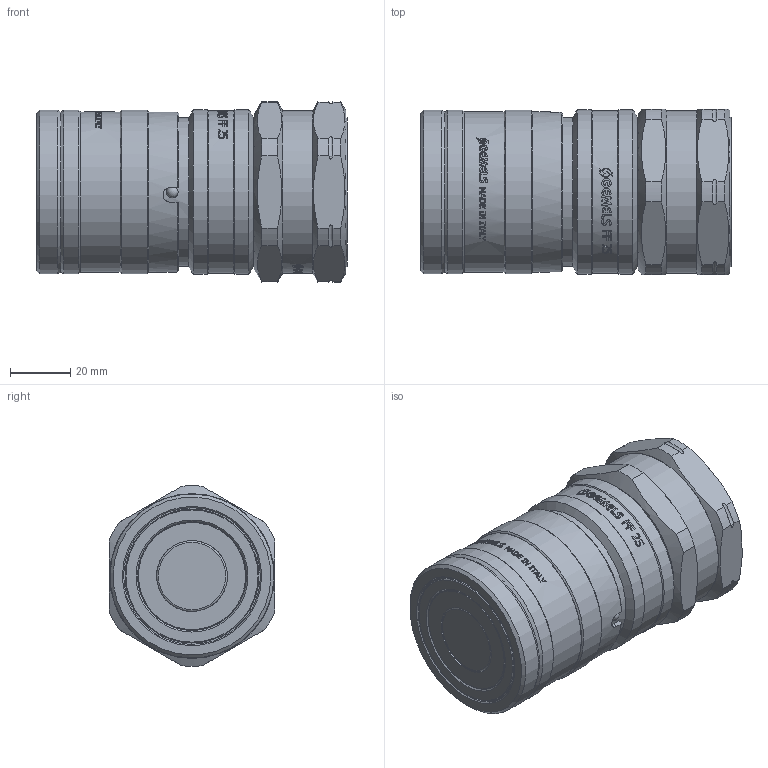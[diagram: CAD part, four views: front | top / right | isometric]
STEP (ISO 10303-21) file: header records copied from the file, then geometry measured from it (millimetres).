
FILE_DESCRIPTION(/* description */ (''),/* implementation_level */ '2;1');
FILE_NAME(/* name */ 'NC06N070000.stp',/* time_stamp */ '2024-08-26T17:50:08+02:00',/* author */ ('thomas.belotti'),/* organization */ (''),/* preprocessor_version */ 'ST-DEVELOPER v20',/* originating_system */ 'Autodesk Inventor 2024',/* authorisation */ '');
FILE_SCHEMA (('AUTOMOTIVE_DESIGN { 1 0 10303 214 3 1 1 }'));
Products named in the file (1): Parte26
Bounding box: 103.23 x 55 x 59.98 mm (x, y, z)
Volume: 205276.9 mm3; surface area: 35542 mm2
Topology: 1 solids, 5 shells, 1638 faces, 4643 edges, 3088 vertices
Faces by surface type: bspline 1041, plane 438, cylinder 121, cone 26, torus 8, sphere 4
Full cylindrical faces by diameter (mm): 3.9 x4, 23.55 x1, 23.6 x1, 36 x1, 36.2 x1, 44.5 x2, 45.4 x1, 46 x2, 46.3 x1, 49.5 x2, 49.7 x1, 53.2 x2, 54 x2, 54.4 x3, 54.7 x2
Entity records: 70415 total; most frequent: CARTESIAN_POINT 33051, ORIENTED_EDGE 9286, EDGE_CURVE 4643, DIRECTION 4218, VERTEX_POINT 3087, B_SPLINE_CURVE_WITH_KNOTS 2184, LINE 1840, VECTOR 1840
